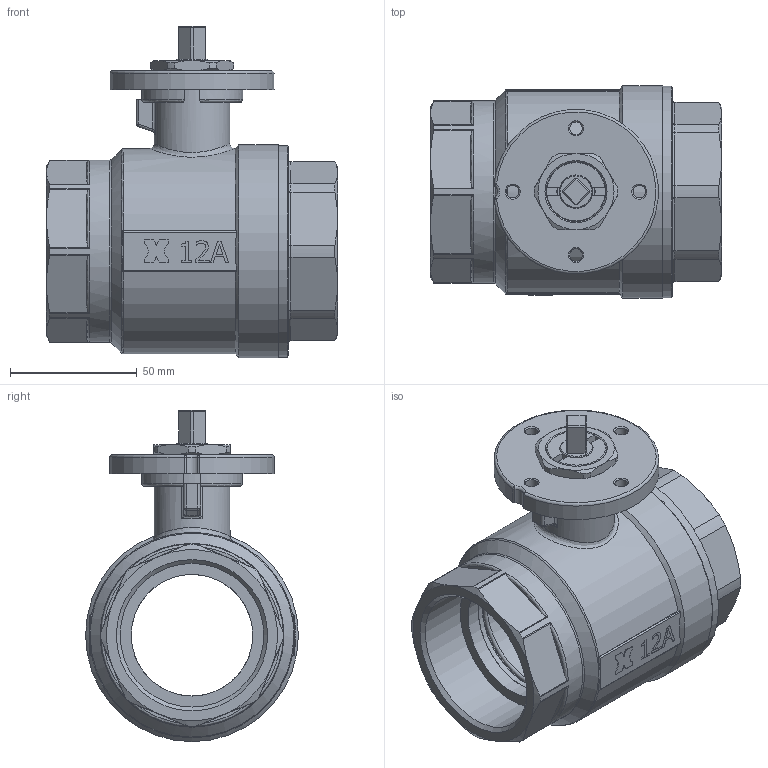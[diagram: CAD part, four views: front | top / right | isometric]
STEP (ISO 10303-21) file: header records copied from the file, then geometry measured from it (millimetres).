
FILE_DESCRIPTION((''),'2;1');
FILE_NAME('C:\Documents and Settings\ut4\Desktop\TICOM ULTIMATE\Art.105 PM SM 002.stp','2012-07-16T14:40:21',('ut4'),(''),'Autodesk Inventor 2013','Autodesk Inventor 2013','');
FILE_SCHEMA(('AUTOMOTIVE_DESIGN { 1 0 10303 214 1 1 1 1 }'));
Length unit declared in the file: millimetre
Products named in the file (13): Valvola a sfera mot. 002 art.105 PM SM; Corpo femmina 002 mot; sfera 002; O-ring 53.64 x 2; Ghiera ferma asta mot. 25; Anello antigrip. perno mot. Ø20; Boccola antigrip. perno mot. Ø20; Perno mot. 20 q8; O-ring 15.08 x 2; Sede 002; Manicotto femmina 002 mot; Dischetto portamotore SM Ø25 lav; Dado blocca piastra SM3
Assembly tree (15 placements, depth 2):
  Valvola a sfera mot. 002 art.105 PM SM
    Corpo femmina 002 mot
    sfera 002
    O-ring 53.64 x 2  x2
    Ghiera ferma asta mot. 25
    Anello antigrip. perno mot. Ø20
    Boccola antigrip. perno mot. Ø20
    Perno mot. 20 q8
    O-ring 15.08 x 2  x2
    Sede 002  x2
    Manicotto femmina 002 mot
    Dischetto portamotore SM Ø25 lav
    Dado blocca piastra SM3
Bounding box: 114.9 x 84 x 130.75 mm (x, y, z)
Volume: 312286.2 mm3; surface area: 128191.7 mm2
Topology: 15 solids, 15 shells, 604 faces, 1480 edges, 914 vertices
Faces by surface type: plane 231, cylinder 168, torus 71, cone 60, bspline 53, sphere 21
Full cylindrical faces by diameter (mm): 4.917 x4, 13 x1, 13.2 x2, 14.8 x1, 15.1 x1, 16 x1, 16.1 x2, 16.3 x2, 19.9 x3, 20 x2, 20.1 x1, 23 x1, 23.5 x2, 25 x2, 30 x1, 48 x5, 53.6 x2, 56.66 x1, 56.7 x1, 59 x4, 66 x1, 72 x1, 74.5 x1, 76 x1, 76.8 x1, 83.5 x1, 84 x1
Entity records: 18713 total; most frequent: CARTESIAN_POINT 4814, DIRECTION 2687, ORIENTED_EDGE 2676, EDGE_CURVE 1338, AXIS2_PLACEMENT_3D 1051, VERTEX_POINT 882, EDGE_LOOP 738, FACE_OUTER_BOUND 593
